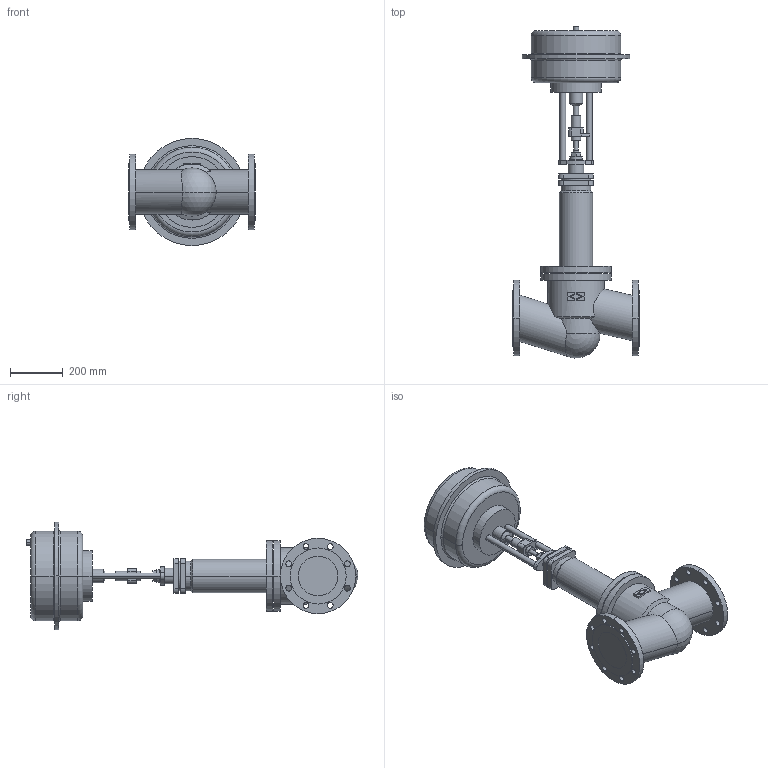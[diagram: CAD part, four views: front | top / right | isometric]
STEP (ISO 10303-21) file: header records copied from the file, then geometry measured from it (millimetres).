
FILE_DESCRIPTION(('OneSpaceDesigner STEP Export'),'2;1');
FILE_NAME('c000003723.stp','2009-06-10T12:05:02',(''),(''),'OneSpace Designer STEP processor for AP214 (Solid Model)','OneSpace Modeling 15.50B 03-Nov-2007 (C) CoCreate Software GmbH','');
FILE_SCHEMA(('AUTOMOTIVE_DESIGN { 1 0 10303 214 1 1 1 1 }'));
Length unit declared in the file: millimetre
Products named in the file (2): 1; 2
Bounding box: 480 x 1254.97 x 405 mm (x, y, z)
Volume: 43992420.2 mm3; surface area: 1451772.6 mm2
Topology: 2 solids, 2 shells, 210 faces, 505 edges, 330 vertices
Faces by surface type: cylinder 112, plane 80, torus 10, cone 6, sphere 2
Entity records: 7473 total; most frequent: CARTESIAN_POINT 1208, ORIENTED_EDGE 1006, DIRECTION 843, EDGE_CURVE 503, VERTEX_POINT 330, AXIS2_PLACEMENT_3D 302, EDGE_LOOP 275, VECTOR 239
